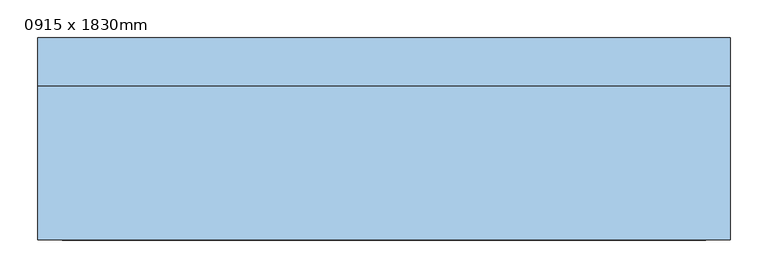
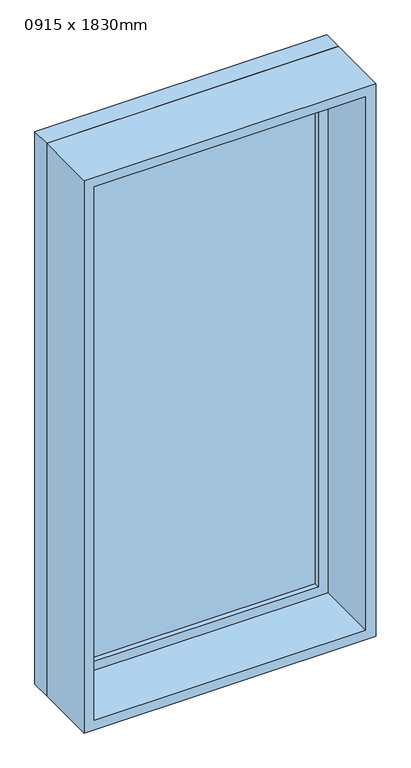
"""IFC4 building model written with IfcOpenShell, lengths in millimetres: window geometry, Pevne : 0915 x 1830mm."""

from ifc_helpers import new_model, si_unit, frame, origin, place, context, project, spatial, polyline, outline, extrude, source, transform, mapped, element, save


def window_0915_x_1830mm_7ee91fd3(model_context):
    return source(origin(), model_context, "Body", "SweptSolid", [
        extrude(outline(polyline([(-394.5, 111.5), (394.5, 111.5), (394.5, 99.5), (-394.5, 99.5), (-394.5, 111.5)])), frame((0.0, 0.0, 368.0), z_axis=(0.0, 0.0, 1.0), x_axis=(1.0, 0.0, 0.0)), (0.0, 0.0, 1.0), 1704.0),
        extrude(outline(polyline([(2116.0, -438.5), (324.0, -438.5), (324.0, 438.5), (2116.0, 438.5), (2116.0, -438.5)]), holes=[polyline([(2072.0, -394.5), (2072.0, 394.5), (368.0, 394.5), (368.0, -394.5), (2072.0, -394.5)])]), frame((0.0, 83.5, 0.0), z_axis=(0.0, 1.0, 0.0), x_axis=(0.0, 0.0, 1.0)), (0.0, 0.0, 1.0), 44.0),
        extrude(outline(polyline([(2135.0, -457.5), (305.0, -457.5), (305.0, 457.5), (2135.0, 457.5), (2135.0, -457.5)]), holes=[polyline([(2116.0, -438.5), (2116.0, 438.5), (324.0, 438.5), (324.0, -438.5), (2116.0, -438.5)])]), frame((0.0, 83.5, 0.0), z_axis=(0.0, 1.0, 0.0), x_axis=(0.0, 0.0, 1.0)), (0.0, 0.0, 1.0), 63.0),
        extrude(outline(polyline([(2135.0, -457.5), (305.0, -457.5), (305.0, 457.5), (2135.0, 457.5), (2135.0, -457.5)]), holes=[polyline([(2103.0, -425.5), (2103.0, 425.5), (337.0, 425.5), (337.0, -425.5), (2103.0, -425.5)])]), frame((0.0, -120.5, 0.0), z_axis=(0.0, 1.0, 0.0), x_axis=(0.0, 0.0, 1.0)), (0.0, 0.0, 1.0), 204.0),
    ])


if __name__ == "__main__":
    model = new_model("IFC4")
    model_context = context("Model", 3, world=origin())
    ifc_project = project(units=[si_unit("LENGTHUNIT", "METRE", prefix="MILLI")], contexts=[model_context])
    site = spatial("IfcSite", under=ifc_project)
    building = spatial("IfcBuilding", under=site)
    placement = place(None, origin())
    window_0915_x_1830mm_shape = window_0915_x_1830mm_7ee91fd3(model_context)
    element("IfcWindow", 1, ObjectType="Pevne : 0915 x 1830mm", at=placement, inside=building, context=model_context, shape_type="MappedRepresentation", body=[
        mapped(window_0915_x_1830mm_shape, transform((0.0, 0.0, 0.0), x_axis=(1.0, 0.0, 0.0), y_axis=(0.0, 1.0, 0.0), z_axis=(0.0, 0.0, 1.0))),
    ])
    save(model, "model.ifc")
